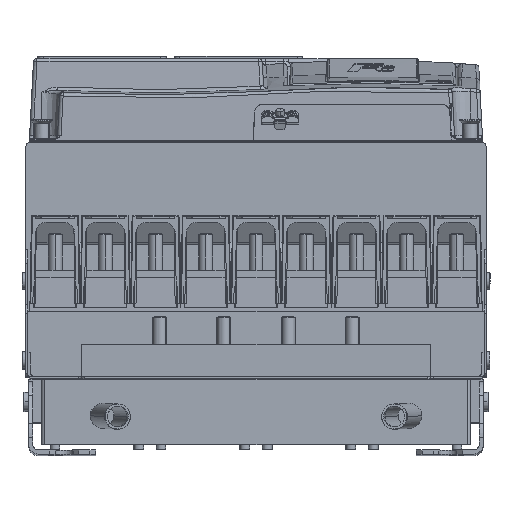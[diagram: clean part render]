
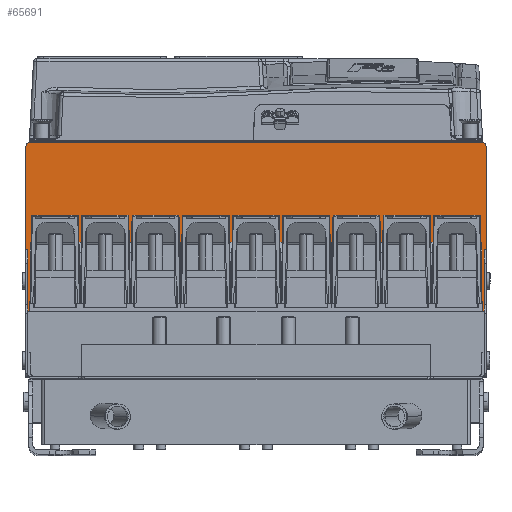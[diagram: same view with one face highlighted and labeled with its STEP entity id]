
A CAD part, top view. The second image highlights one B-rep face of the part: STEP entity #65691.
In plain terms, the highlighted planar face has unit normal (0, 0, 1).
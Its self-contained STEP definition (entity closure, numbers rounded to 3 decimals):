
#1474 = CARTESIAN_POINT ( 'NONE',  ( -165., -3.5, 453. ) ) ;
#1934 = EDGE_CURVE ( 'NONE', #63507, #59023, #98025, .T. ) ;
#1968 = ORIENTED_EDGE ( 'NONE', *, *, #1934, .F. ) ;
#2346 = VECTOR ( 'NONE', #61281, 1000. ) ;
#3940 = CARTESIAN_POINT ( 'NONE',  ( -165., -3.5, 453. ) ) ;
#4638 = CARTESIAN_POINT ( 'NONE',  ( 165., -77., 453. ) ) ;
#4672 = CARTESIAN_POINT ( 'NONE',  ( 161.5, -3.5, 453. ) ) ;
#4884 = CARTESIAN_POINT ( 'NONE',  ( -163.5, -77., 453. ) ) ;
#5070 = DIRECTION ( 'NONE',  ( 0., 0., -1. ) ) ;
#6622 = LINE ( 'NONE', #31341, #34569 ) ;
#8051 = VECTOR ( 'NONE', #88919, 1000. ) ;
#8097 = VECTOR ( 'NONE', #49057, 1000. ) ;
#8625 = CARTESIAN_POINT ( 'NONE',  ( 165., -3.5, 453. ) ) ;
#13145 = CARTESIAN_POINT ( 'NONE',  ( -161.5, -3.5, 453. ) ) ;
#13790 = DIRECTION ( 'NONE',  ( 0., 1., 0. ) ) ;
#15621 = CIRCLE ( 'NONE', #77259, 3.5 ) ;
#16138 = EDGE_CURVE ( 'NONE', #40581, #80943, #6622, .T. ) ;
#18321 = VECTOR ( 'NONE', #63248, 1000. ) ;
#19273 = CARTESIAN_POINT ( 'NONE',  ( 0., 0., 453. ) ) ;
#19397 = ORIENTED_EDGE ( 'NONE', *, *, #16138, .T. ) ;
#19471 = CARTESIAN_POINT ( 'NONE',  ( 163.5, -167.9, 453. ) ) ;
#19817 = DIRECTION ( 'NONE',  ( 0., 1., 0. ) ) ;
#20214 = EDGE_CURVE ( 'NONE', #59023, #96467, #84582, .T. ) ;
#21109 = LINE ( 'NONE', #3940, #2346 ) ;
#21304 = CARTESIAN_POINT ( 'NONE',  ( -165., -77., 453. ) ) ;
#21675 = CARTESIAN_POINT ( 'NONE',  ( 163.5, -77., 453. ) ) ;
#22136 = CARTESIAN_POINT ( 'NONE',  ( 161.5, 0., 453. ) ) ;
#27285 = VECTOR ( 'NONE', #37005, 1000. ) ;
#29110 = EDGE_LOOP ( 'NONE', ( #70785, #60684, #19397, #39889, #40732, #50604, #29503, #36471, #92404, #1968 ) ) ;
#29503 = ORIENTED_EDGE ( 'NONE', *, *, #42246, .F. ) ;
#31341 = CARTESIAN_POINT ( 'NONE',  ( -165.001, -77., 453. ) ) ;
#32625 = VERTEX_POINT ( 'NONE', #19471 ) ;
#32680 = PLANE ( 'NONE',  #90617 ) ;
#34569 = VECTOR ( 'NONE', #79566, 1000. ) ;
#34653 = VERTEX_POINT ( 'NONE', #21675 ) ;
#35158 = CARTESIAN_POINT ( 'NONE',  ( 165., -3.5, 453. ) ) ;
#36471 = ORIENTED_EDGE ( 'NONE', *, *, #74546, .T. ) ;
#37005 = DIRECTION ( 'NONE',  ( -1., 0., 0. ) ) ;
#39053 = DIRECTION ( 'NONE',  ( -1., 0., 0. ) ) ;
#39889 = ORIENTED_EDGE ( 'NONE', *, *, #81381, .F. ) ;
#40069 = AXIS2_PLACEMENT_3D ( 'NONE', #4672, #44394, #13790 ) ;
#40581 = VERTEX_POINT ( 'NONE', #21304 ) ;
#40732 = ORIENTED_EDGE ( 'NONE', *, *, #67289, .F. ) ;
#41693 = CARTESIAN_POINT ( 'NONE',  ( -163.5, 0., 453. ) ) ;
#42246 = EDGE_CURVE ( 'NONE', #75520, #34653, #87836, .T. ) ;
#44394 = DIRECTION ( 'NONE',  ( 0., 0., -1. ) ) ;
#45034 = LINE ( 'NONE', #77738, #27285 ) ;
#45074 = EDGE_CURVE ( 'NONE', #82567, #40581, #21109, .T. ) ;
#48682 = DIRECTION ( 'NONE',  ( 0., 1., 0. ) ) ;
#49057 = DIRECTION ( 'NONE',  ( 0., 1., 0. ) ) ;
#50604 = ORIENTED_EDGE ( 'NONE', *, *, #103396, .F. ) ;
#51201 = LINE ( 'NONE', #35158, #8097 ) ;
#52751 = LINE ( 'NONE', #79871, #18321 ) ;
#57758 = LINE ( 'NONE', #41693, #60307 ) ;
#59023 = VERTEX_POINT ( 'NONE', #22136 ) ;
#60307 = VECTOR ( 'NONE', #48682, 1000. ) ;
#60684 = ORIENTED_EDGE ( 'NONE', *, *, #45074, .T. ) ;
#61281 = DIRECTION ( 'NONE',  ( 0., -1., 0. ) ) ;
#63248 = DIRECTION ( 'NONE',  ( 0., -1., 0. ) ) ;
#63507 = VERTEX_POINT ( 'NONE', #68556 ) ;
#63645 = VECTOR ( 'NONE', #39053, 1000. ) ;
#65691 = ADVANCED_FACE ( 'NONE', ( #106085 ), #32680, .F. ) ;
#66421 = CARTESIAN_POINT ( 'NONE',  ( 0., 0., 453. ) ) ;
#67289 = EDGE_CURVE ( 'NONE', #32625, #104081, #45034, .T. ) ;
#68556 = CARTESIAN_POINT ( 'NONE',  ( -161.5, 0., 453. ) ) ;
#69240 = EDGE_CURVE ( 'NONE', #82567, #63507, #15621, .T. ) ;
#70785 = ORIENTED_EDGE ( 'NONE', *, *, #69240, .F. ) ;
#74546 = EDGE_CURVE ( 'NONE', #75520, #96467, #51201, .T. ) ;
#75520 = VERTEX_POINT ( 'NONE', #4638 ) ;
#77259 = AXIS2_PLACEMENT_3D ( 'NONE', #13145, #5070, #102147 ) ;
#77738 = CARTESIAN_POINT ( 'NONE',  ( 0., -167.9, 453. ) ) ;
#79566 = DIRECTION ( 'NONE',  ( 1., 0., 0. ) ) ;
#79871 = CARTESIAN_POINT ( 'NONE',  ( 163.5, 0., 453. ) ) ;
#80943 = VERTEX_POINT ( 'NONE', #4884 ) ;
#81381 = EDGE_CURVE ( 'NONE', #104081, #80943, #57758, .T. ) ;
#82567 = VERTEX_POINT ( 'NONE', #1474 ) ;
#84582 = CIRCLE ( 'NONE', #40069, 3.5 ) ;
#87836 = LINE ( 'NONE', #106021, #63645 ) ;
#88919 = DIRECTION ( 'NONE',  ( 1., 0., 0. ) ) ;
#90617 = AXIS2_PLACEMENT_3D ( 'NONE', #19273, #102302, #19817 ) ;
#92404 = ORIENTED_EDGE ( 'NONE', *, *, #20214, .F. ) ;
#96467 = VERTEX_POINT ( 'NONE', #8625 ) ;
#96709 = CARTESIAN_POINT ( 'NONE',  ( -163.5, -167.9, 453. ) ) ;
#98025 = LINE ( 'NONE', #66421, #8051 ) ;
#102147 = DIRECTION ( 'NONE',  ( 0., 1., 0. ) ) ;
#102302 = DIRECTION ( 'NONE',  ( 0., 0., -1. ) ) ;
#103396 = EDGE_CURVE ( 'NONE', #34653, #32625, #52751, .T. ) ;
#104081 = VERTEX_POINT ( 'NONE', #96709 ) ;
#106021 = CARTESIAN_POINT ( 'NONE',  ( 165.001, -77., 453. ) ) ;
#106085 = FACE_OUTER_BOUND ( 'NONE', #29110, .T. ) ;
